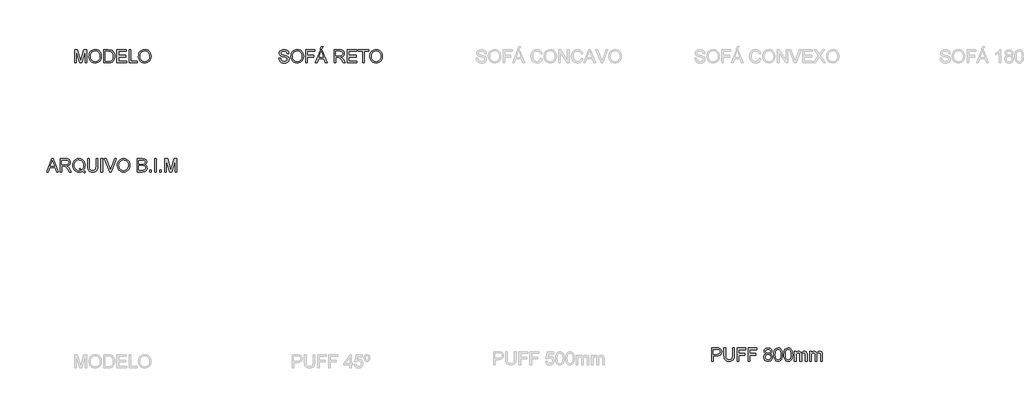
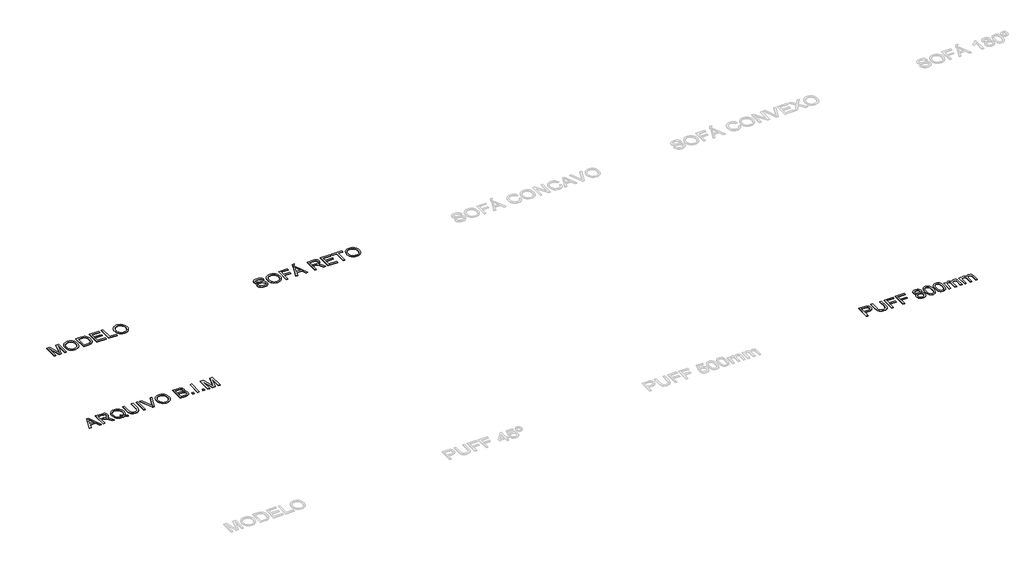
# One storey, part 2 of 4: 4 proxies.
"""IFC4 building model written with IfcOpenShell, lengths in millimetres."""

from ifc_helpers import new_model, si_unit, origin, origin_with_axes, place, context, project, spatial, polyline, outline, extrude, element, save

model = new_model("IFC4")

# Units and contexts
model_context = context("Model", 3, world=origin())
ifc_project = project(units=[si_unit("LENGTHUNIT", "METRE", prefix="MILLI")], contexts=[model_context])

# Site, building, storey
site = spatial("IfcSite", under=ifc_project)
building = spatial("IfcBuilding", under=site)
storey = spatial("IfcBuildingStorey", under=building, Name="Marelli - Linha BLEND - Planta Baixa", Elevation=0.0)

# Proxies
placement = place(None, origin())
element("IfcBuildingElementProxy", 1, Name="300mm Arial", ObjectType="300mm Arial", at=placement, inside=storey, context=model_context, shape_type="SweptSolid", body=[
    extrude(outline(polyline([(-20609.419598, 3219.4336799), (-20489.1221856, 3520.8026104), (-20457.0428756, 3520.8026104), (-20336.7454632, 3219.4336799), (-20376.550295, 3219.4336799), (-20411.0576262, 3313.6114707), (-20535.1810114, 3313.6114707), (-20569.6147661, 3219.4336799), (-20609.419598, 3219.4336799)]), holes=[polyline([(-20521.3486483, 3351.282587), (-20424.8164128, 3351.282587), (-20451.9661041, 3425.3740208), (-20473.0825306, 3483.1314941), (-20491.8445123, 3431.8487439), (-20521.3486483, 3351.282587)])]), origin_with_axes(), (0.0, 0.0, 1.0), 10.0),
    extrude(outline(polyline([(-20296.4991729, 3219.4336799), (-20296.4991729, 3520.8026104), (-20166.6368286, 3520.8026104), (-20131.7340243, 3518.7700624), (-20106.3409696, 3512.6724183), (-20087.7813229, 3501.4152292), (-20073.3787428, 3483.9040463), (-20064.1357077, 3462.1898115), (-20061.054696, 3438.3234671), (-20066.1590587, 3408.6353901), (-20081.4721467, 3384.0240846), (-20093.0719259, 3373.9947017), (-20107.4538126, 3365.9794727), (-20144.5639089, 3355.9914765), (-20123.1531768, 3339.8782452), (-20092.6189712, 3301.1034829), (-20042.3662906, 3219.4336799), (-20086.144248, 3219.4336799), (-20125.3604687, 3281.9000427), (-20153.6873824, 3323.249979), (-20173.5897983, 3342.7845129), (-20191.5056515, 3349.9582118), (-20213.357842, 3351.282587), (-20258.8280566, 3351.282587), (-20258.8280566, 3219.4336799), (-20296.4991729, 3219.4336799)]), holes=[polyline([(-20258.8280566, 3388.9537033), (-20174.5095033, 3388.9537033), (-20150.293671, 3390.2872755), (-20131.5040981, 3394.2879922), (-20117.3590353, 3401.2225678), (-20107.0767336, 3411.3577168), (-20100.8135426, 3423.6173843), (-20098.7258123, 3436.9255155), (-20102.7081349, 3455.3012211), (-20114.6551027, 3470.1084714), (-20135.2105092, 3479.8757384), (-20165.0181478, 3483.1314941), (-20258.8280566, 3483.1314941), (-20258.8280566, 3388.9537033)])]), origin_with_axes(), (0.0, 0.0, 1.0), 10.0),
    extrude(outline(polyline([(-19768.7356626, 3255.5596919), (-19744.4002686, 3236.963257), (-19722.0146492, 3224.1425695), (-19732.1681923, 3196.5514198), (-19763.2358268, 3210.9539999), (-19794.1930967, 3231.794515), (-19829.0499157, 3218.9922215), (-19867.4016137, 3214.7247904), (-19905.9372527, 3219.6452121), (-19940.7572836, 3234.4064771), (-19969.9211287, 3258.0796835), (-19991.4882107, 3289.7359292), (-20004.814736, 3327.6369718), (-20009.2569111, 3370.0445688), (-20004.823933, 3412.488954), (-19991.5249989, 3450.9418195), (-19970.0406904, 3483.0487206), (-19941.0515892, 3506.4552126), (-19906.360317, 3520.7474281), (-19867.7694957, 3525.5114999), (-19828.8751718, 3520.6370635), (-19794.0091557, 3506.0137542), (-19765.0660397, 3482.6164593), (-19743.9404161, 3451.4200661), (-19731.0277581, 3414.0800436), (-19726.7235388, 3372.2518607), (-19729.3355009, 3337.4686181), (-19737.1713874, 3306.4009836), (-19750.2863806, 3279.0857454), (-19768.7356626, 3255.5596919)]), holes=[polyline([(-19857.0273415, 3305.6652196), (-19825.3527017, 3293.6906607), (-19799.784903, 3277.0440004), (-19784.3016695, 3294.5183951), (-19773.2422171, 3315.8923391), (-19766.6065456, 3341.1658321), (-19764.3946551, 3370.3388744), (-19767.521652, 3403.4942392), (-19776.9026429, 3432.1798377), (-19792.3077015, 3455.6691031), (-19813.5069014, 3473.2354684), (-19839.065503, 3484.1891548), (-19867.5487665, 3487.8403836), (-19889.033075, 3485.9940758), (-19908.6043972, 3480.4551526), (-19926.2627329, 3471.2236137), (-19942.0080823, 3458.2994594), (-19954.9483315, 3441.7102807), (-19964.1913666, 3421.4836687), (-19969.7371877, 3397.6196236), (-19971.5857948, 3370.1181452), (-19969.7578811, 3343.3340366), (-19964.2741401, 3319.8562676), (-19955.1345718, 3299.6848379), (-19942.3391761, 3282.8197477), (-19926.7018921, 3269.5093173), (-19909.0366585, 3260.001867), (-19889.3434755, 3254.2973968), (-19867.6223429, 3252.3959067), (-19846.7082515, 3254.3272872), (-19827.081747, 3260.1214286), (-19846.3771577, 3270.146213), (-19866.7394261, 3276.8232712), (-19857.0273415, 3305.6652196)])]), origin_with_axes(), (0.0, 0.0, 1.0), 10.0),
    extrude(outline(polyline([(-19472.4435037, 3520.8026104), (-19434.7723874, 3520.8026104), (-19434.7723874, 3346.9415795), (-19437.3291673, 3306.2262396), (-19444.9995069, 3274.8734966), (-19459.3285106, 3250.6852554), (-19481.8612828, 3231.4634212), (-19512.6530058, 3218.9094481), (-19551.7588619, 3214.7247904), (-19590.0093923, 3218.3668221), (-19620.5895832, 3229.2929174), (-19643.5086315, 3247.1259971), (-19658.7757343, 3271.4889822), (-19667.3565818, 3304.1661005), (-19670.2168643, 3346.9415795), (-19670.2168643, 3520.8026104), (-19632.545748, 3520.8026104), (-19632.545748, 3348.2659546), (-19630.6879439, 3314.411614), (-19625.1145317, 3290.8395752), (-19615.0161709, 3274.5148117), (-19599.5835212, 3262.402297), (-19579.4603761, 3254.8975043), (-19555.290529, 3252.3959067), (-19516.9756192, 3257.3439195), (-19502.6328199, 3263.5289356), (-19491.499791, 3272.187958), (-19483.1626653, 3284.3648521), (-19477.2075755, 3301.1034829), (-19472.4435037, 3348.2659546), (-19472.4435037, 3520.8026104)])), origin_with_axes(), (0.0, 0.0, 1.0), 10.0),
    extrude(outline(polyline([(-19364.1390443, 3219.4336799), (-19364.1390443, 3520.8026104), (-19326.467928, 3520.8026104), (-19326.467928, 3219.4336799), (-19364.1390443, 3219.4336799)])), origin_with_axes(), (0.0, 0.0, 1.0), 10.0),
    extrude(outline(polyline([(-19162.0982526, 3219.4336799), (-19282.027783, 3520.8026104), (-19241.7079163, 3520.8026104), (-19161.436065, 3303.6786568), (-19145.1756808, 3254.7503515), (-19129.1360258, 3303.6786568), (-19048.6434453, 3520.8026104), (-19008.3235786, 3520.8026104), (-19123.1763375, 3219.4336799), (-19162.0982526, 3219.4336799)])), origin_with_axes(), (0.0, 0.0, 1.0), 10.0),
    extrude(outline(polyline([(-18987.4278813, 3366.1450196), (-18984.9170866, 3401.4938808), (-18977.3847028, 3432.786843), (-18964.8307297, 3460.0239063), (-18947.2551674, 3483.2050705), (-18925.711078, 3501.7141334), (-18901.2515239, 3514.9348926), (-18873.8765049, 3522.8673481), (-18843.5860211, 3525.5114999), (-18804.0571008, 3520.545093), (-18768.6116705, 3505.6458722), (-18739.1811109, 3481.8623012), (-18717.6968024, 3450.2428437), (-18704.5634152, 3412.31421), (-18700.1856194, 3369.6031104), (-18704.7933414, 3326.3217936), (-18718.6165074, 3287.859731), (-18740.8917622, 3256.1850913), (-18770.8557507, 3233.266043), (-18805.9976783, 3219.3601035), (-18843.8067503, 3214.7247904), (-18883.942676, 3219.8475472), (-18919.5904413, 3235.2158175), (-18948.9474246, 3259.4408469), (-18970.2110039, 3291.1338808), (-18983.1236619, 3327.6001836), (-18987.4278813, 3366.1450196)]), holes=[polyline([(-18949.7567649, 3365.7771376), (-18947.873669, 3340.8025487), (-18942.2243811, 3318.6330599), (-18932.8089013, 3299.2686714), (-18919.6272295, 3282.7093831), (-18903.6036694, 3269.4472372), (-18885.6625243, 3259.9742758), (-18865.8037944, 3254.290499), (-18844.0274795, 3252.3959067), (-18821.8786842, 3254.3088931), (-18801.7854294, 3260.0478522), (-18783.7477154, 3269.6127841), (-18767.7655419, 3283.0036887), (-18754.6804392, 3299.9124649), (-18745.3339373, 3320.0310115), (-18739.7260361, 3343.3593285), (-18737.8567357, 3369.897416), (-18741.0573091, 3403.2459188), (-18750.6590292, 3432.0694731), (-18766.4135756, 3455.641512), (-18788.0726281, 3473.2354684), (-18814.2014468, 3484.1891548), (-18843.3652919, 3487.8403836), (-18864.3851494, 3486.0814478), (-18883.8874937, 3480.8046405), (-18901.8723248, 3472.0099615), (-18918.3396426, 3459.697411), (-18932.0846336, 3443.2737792), (-18941.9024844, 3422.1458563), (-18947.7931948, 3396.3136425), (-18949.7567649, 3365.7771376)])]), origin_with_axes(), (0.0, 0.0, 1.0), 10.0),
    extrude(outline(polyline([(-18530.665596, 3219.4336799), (-18530.665596, 3520.8026104), (-18415.6656844, 3520.8026104), (-18384.0370298, 3518.5861214), (-18359.3429509, 3511.9366543), (-18340.4154222, 3500.6886623), (-18326.0864185, 3484.6765985), (-18317.0641126, 3465.8410403), (-18314.0566773, 3446.1225654), (-18316.585866, 3427.9767859), (-18324.1734321, 3410.9162584), (-18336.874558, 3395.9894465), (-18354.7444259, 3384.2448138), (-18333.3980732, 3373.0979893), (-18317.6251326, 3356.1386293), (-18307.8854568, 3334.4887739), (-18304.6388982, 3309.2704632), (-18306.8553872, 3288.2552042), (-18313.5048543, 3268.7666555), (-18323.4284711, 3252.1935716), (-18335.4674094, 3239.9247071), (-18350.2102804, 3231.0403569), (-18368.2456952, 3224.6208161), (-18416.5486011, 3219.4336799), (-18530.665596, 3219.4336799)]), holes=[polyline([(-18492.9944797, 3398.3714824), (-18424.2005466, 3398.3714824), (-18384.0278328, 3401.6088439), (-18369.9655435, 3407.1914532), (-18359.8579857, 3415.5515716), (-18353.7603416, 3426.5604403), (-18351.7277936, 3440.0893006), (-18353.6223859, 3453.2226879), (-18359.3061627, 3464.6638179), (-18368.5216067, 3473.5941533), (-18381.0112004, 3479.1951567), (-18429.424471, 3483.1314941), (-18492.9944797, 3483.1314941), (-18492.9944797, 3398.3714824)]), polyline([(-18492.9944797, 3257.1047962), (-18415.7392607, 3257.1047962), (-18387.7802291, 3258.5763242), (-18364.1254168, 3266.7800927), (-18348.4536438, 3283.5187235), (-18343.8459218, 3295.3461296), (-18342.3100145, 3308.9025812), (-18344.1126363, 3324.6479306), (-18349.5205016, 3338.185988), (-18358.9658718, 3348.7717924), (-18372.8810083, 3355.6603827), (-18392.5902862, 3359.4403702), (-18419.4180807, 3360.7003661), (-18492.9944797, 3360.7003661), (-18492.9944797, 3257.1047962)])]), origin_with_axes(), (0.0, 0.0, 1.0), 10.0),
    extrude(outline(polyline([(-18248.1322237, 3219.4336799), (-18248.1322237, 3257.1047962), (-18210.4611074, 3257.1047962), (-18210.4611074, 3219.4336799), (-18248.1322237, 3219.4336799)])), origin_with_axes(), (0.0, 0.0, 1.0), 10.0),
    extrude(outline(polyline([(-18130.4099853, 3219.4336799), (-18130.4099853, 3520.8026104), (-18092.738869, 3520.8026104), (-18092.738869, 3219.4336799), (-18130.4099853, 3219.4336799)])), origin_with_axes(), (0.0, 0.0, 1.0), 10.0),
    extrude(outline(polyline([(-18012.6877468, 3219.4336799), (-18012.6877468, 3257.1047962), (-17975.0166305, 3257.1047962), (-17975.0166305, 3219.4336799), (-18012.6877468, 3219.4336799)])), origin_with_axes(), (0.0, 0.0, 1.0), 10.0),
    extrude(outline(polyline([(-17899.6743979, 3219.4336799), (-17899.6743979, 3520.8026104), (-17834.8535904, 3520.8026104), (-17773.196568, 3308.3875464), (-17760.7621565, 3264.0209777), (-17747.2976755, 3312.0663663), (-17686.6707227, 3520.8026104), (-17621.8499152, 3520.8026104), (-17621.8499152, 3219.4336799), (-17659.5210315, 3219.4336799), (-17659.5210315, 3483.1314941), (-17735.2311461, 3219.4336799), (-17786.293167, 3219.4336799), (-17862.0032816, 3483.1314941), (-17862.0032816, 3219.4336799), (-17899.6743979, 3219.4336799)])), origin_with_axes(), (0.0, 0.0, 1.0), 10.0),
])
element("IfcBuildingElementProxy", 2, Name="300mm Arial", ObjectType="300mm Arial", at=placement, inside=storey, context=model_context, shape_type="SweptSolid", body=[
    extrude(outline(polyline([(-19966.8769052, 5719.4336799), (-19966.8769052, 6020.8026104), (-19902.0560977, 6020.8026104), (-19840.3990753, 5808.3875464), (-19827.9646638, 5764.0209777), (-19814.5001828, 5812.0663663), (-19753.87323, 6020.8026104), (-19689.0524225, 6020.8026104), (-19689.0524225, 5719.4336799), (-19726.7235388, 5719.4336799), (-19726.7235388, 5983.1314941), (-19802.4336534, 5719.4336799), (-19853.4956743, 5719.4336799), (-19929.2057889, 5983.1314941), (-19929.2057889, 5719.4336799), (-19966.8769052, 5719.4336799)])), origin_with_axes(), (0.0, 0.0, 1.0), 10.0),
    extrude(outline(polyline([(-19637.2546375, 5866.1450196), (-19634.7438429, 5901.4938808), (-19627.2114591, 5932.786843), (-19614.657486, 5960.0239063), (-19597.0819237, 5983.2050705), (-19575.5378343, 6001.7141334), (-19551.0782802, 6014.9348926), (-19523.7032612, 6022.8673481), (-19493.4127774, 6025.5114999), (-19453.883857, 6020.545093), (-19418.4384268, 6005.6458722), (-19389.0078672, 5981.8623012), (-19367.5235587, 5950.2428437), (-19354.3901714, 5912.31421), (-19350.0123757, 5869.6031104), (-19354.6200977, 5826.3217936), (-19368.4432637, 5787.859731), (-19390.7185185, 5756.1850913), (-19420.682507, 5733.266043), (-19455.8244346, 5719.3601035), (-19493.6335066, 5714.7247904), (-19533.7694323, 5719.8475472), (-19569.4171976, 5735.2158175), (-19598.7741808, 5759.4408469), (-19620.0377602, 5791.1338808), (-19632.9504182, 5827.6001836), (-19637.2546375, 5866.1450196)]), holes=[polyline([(-19599.5835212, 5865.7771376), (-19597.7004253, 5840.8025487), (-19592.0511374, 5818.6330599), (-19582.6356576, 5799.2686714), (-19569.4539858, 5782.7093831), (-19553.4304257, 5769.4472372), (-19535.4892806, 5759.9742758), (-19515.6305507, 5754.290499), (-19493.8542358, 5752.3959067), (-19471.7054404, 5754.3088931), (-19451.6121857, 5760.0478522), (-19433.5744716, 5769.6127841), (-19417.5922982, 5783.0036887), (-19404.5071955, 5799.9124649), (-19395.1606936, 5820.0310115), (-19389.5527924, 5843.3593285), (-19387.683492, 5869.897416), (-19390.8840654, 5903.2459188), (-19400.4857854, 5932.0694731), (-19416.2403319, 5955.641512), (-19437.8993843, 5973.2354684), (-19464.0282031, 5984.1891548), (-19493.1920482, 5987.8403836), (-19514.2119057, 5986.0814478), (-19533.71425, 5980.8046405), (-19551.699081, 5972.0099615), (-19568.1663988, 5959.697411), (-19581.9113899, 5943.2737792), (-19591.7292406, 5922.1458563), (-19597.6199511, 5896.3136425), (-19599.5835212, 5865.7771376)])]), origin_with_axes(), (0.0, 0.0, 1.0), 10.0),
    extrude(outline(polyline([(-19298.2145908, 5719.4336799), (-19298.2145908, 6020.8026104), (-19194.2511389, 6020.8026104), (-19140.4667912, 6016.4616028), (-19116.444097, 6008.0922874), (-19096.173799, 5994.9037179), (-19075.333284, 5971.9478814), (-19060.4892455, 5943.4002386), (-19051.6048953, 5909.8126124), (-19048.6434453, 5871.7368259), (-19050.6484021, 5839.3908015), (-19056.6632727, 5810.9259321), (-19065.8235344, 5786.6917057), (-19077.2646645, 5767.0376101), (-19090.4348399, 5751.522187), (-19104.7822377, 5739.7039779), (-19121.254154, 5730.9391893), (-19140.797885, 5724.5840279), (-19189.2479438, 5719.4336799), (-19298.2145908, 5719.4336799)]), holes=[polyline([(-19260.5434745, 5757.1047962), (-19193.8832569, 5757.1047962), (-19166.3105014, 5758.4659596), (-19145.39641, 5762.5494498), (-19129.6142724, 5769.1161434), (-19117.4373783, 5777.9269172), (-19104.3499764, 5794.2332866), (-19094.5183301, 5815.3405161), (-19088.3655037, 5841.3405761), (-19086.3145616, 5872.3254371), (-19090.3336724, 5913.3810678), (-19102.3910047, 5943.6945442), (-19120.2056904, 5964.5166651), (-19141.4968608, 5977.0982294), (-19163.1651104, 5981.6231779), (-19194.9133265, 5983.1314941), (-19260.5434745, 5983.1314941), (-19260.5434745, 5757.1047962)])]), origin_with_axes(), (0.0, 0.0, 1.0), 10.0),
    extrude(outline(polyline([(-18996.8456603, 5719.4336799), (-18996.8456603, 6020.8026104), (-18780.2367416, 6020.8026104), (-18780.2367416, 5983.1314941), (-18959.174544, 5983.1314941), (-18959.174544, 5893.6625928), (-18789.6545206, 5893.6625928), (-18789.6545206, 5855.9914765), (-18959.174544, 5855.9914765), (-18959.174544, 5757.1047962), (-18775.527852, 5757.1047962), (-18775.527852, 5719.4336799), (-18996.8456603, 5719.4336799)])), origin_with_axes(), (0.0, 0.0, 1.0), 10.0),
    extrude(outline(polyline([(-18719.0211776, 5719.4336799), (-18719.0211776, 6020.8026104), (-18681.3500613, 6020.8026104), (-18681.3500613, 5757.1047962), (-18530.665596, 5757.1047962), (-18530.665596, 5719.4336799), (-18719.0211776, 5719.4336799)])), origin_with_axes(), (0.0, 0.0, 1.0), 10.0),
    extrude(outline(polyline([(-18502.4122588, 5866.1450196), (-18499.9014642, 5901.4938808), (-18492.3690803, 5932.786843), (-18479.8151073, 5960.0239063), (-18462.2395449, 5983.2050705), (-18440.6954556, 6001.7141334), (-18416.2359014, 6014.9348926), (-18388.8608825, 6022.8673481), (-18358.5703987, 6025.5114999), (-18319.0414783, 6020.545093), (-18283.5960481, 6005.6458722), (-18254.1654885, 5981.8623012), (-18232.6811799, 5950.2428437), (-18219.5477927, 5912.31421), (-18215.169997, 5869.6031104), (-18219.777719, 5826.3217936), (-18233.6008849, 5787.859731), (-18255.8761397, 5756.1850913), (-18285.8401283, 5733.266043), (-18320.9820558, 5719.3601035), (-18358.7911279, 5714.7247904), (-18398.9270536, 5719.8475472), (-18434.5748189, 5735.2158175), (-18463.9318021, 5759.4408469), (-18485.1953814, 5791.1338808), (-18498.1080395, 5827.6001836), (-18502.4122588, 5866.1450196)]), holes=[polyline([(-18464.7411425, 5865.7771376), (-18462.8580465, 5840.8025487), (-18457.2087587, 5818.6330599), (-18447.7932788, 5799.2686714), (-18434.6116071, 5782.7093831), (-18418.5880469, 5769.4472372), (-18400.6469019, 5759.9742758), (-18380.7881719, 5754.290499), (-18359.0118571, 5752.3959067), (-18336.8630617, 5754.3088931), (-18316.769807, 5760.0478522), (-18298.7320929, 5769.6127841), (-18282.7499195, 5783.0036887), (-18269.6648168, 5799.9124649), (-18260.3183148, 5820.0310115), (-18254.7104137, 5843.3593285), (-18252.8411133, 5869.897416), (-18256.0416866, 5903.2459188), (-18265.6434067, 5932.0694731), (-18281.3979532, 5955.641512), (-18303.0570056, 5973.2354684), (-18329.1858243, 5984.1891548), (-18358.3496695, 5987.8403836), (-18379.369527, 5986.0814478), (-18398.8718713, 5980.8046405), (-18416.8567023, 5972.0099615), (-18433.3240201, 5959.697411), (-18447.0690112, 5943.2737792), (-18456.8868619, 5922.1458563), (-18462.7775724, 5896.3136425), (-18464.7411425, 5865.7771376)])]), origin_with_axes(), (0.0, 0.0, 1.0), 10.0),
])
element("IfcBuildingElementProxy", 3, Name="300mm Arial", ObjectType="300mm Arial", at=placement, inside=storey, context=model_context, shape_type="SweptSolid", body=[
    extrude(outline(polyline([(-15284.726949, 5823.0292498), (-15247.0558327, 5823.0292498), (-15242.7332193, 5802.1243554), (-15234.9157269, 5785.3213453), (-15222.7204388, 5771.9856229), (-15205.2644381, 5761.482592), (-15183.9272824, 5754.667578), (-15160.0885291, 5752.3959067), (-15139.1008613, 5754.115755), (-15120.7251556, 5759.2753), (-15105.8351318, 5767.4422803), (-15095.3045097, 5778.1844346), (-15089.0413188, 5790.5176784), (-15086.9535884, 5803.4579276), (-15088.5170869, 5816.067083), (-15093.2075824, 5826.9655871), (-15102.735726, 5836.2638046), (-15118.8121692, 5844.0720999), (-15173.6633747, 5858.4562859), (-15209.669825, 5867.9752325), (-15232.7084349, 5877.0343267), (-15251.4612196, 5889.7078614), (-15264.7509567, 5905.0669347), (-15272.6696167, 5922.7804528), (-15275.30917, 5942.5173218), (-15272.0442173, 5964.5810445), (-15262.2493591, 5985.154845), (-15246.182113, 6002.5924516), (-15224.0999962, 6015.2475923), (-15197.5940985, 6022.945523), (-15168.2555094, 6025.5114999), (-15136.470505, 6022.8259614), (-15108.6586262, 6014.7693457), (-15085.8131543, 6001.5071997), (-15068.9273707, 5983.2050705), (-15058.2403987, 5961.0033921), (-15053.9913617, 5936.0425987), (-15091.662478, 5936.0425987), (-15098.5786595, 5958.5201886), (-15112.9996337, 5974.7437846), (-15135.5324059, 5984.5662339), (-15166.7839814, 5987.8403836), (-15198.7713209, 5984.6030221), (-15220.7154819, 5974.8909374), (-15233.4074107, 5960.5987219), (-15237.6380537, 5943.6209678), (-15234.6398154, 5929.1448113), (-15225.6451006, 5917.5013461), (-15204.3815213, 5907.0902857), (-15164.135231, 5896.458496), (-15122.6013538, 5886.3601352), (-15097.4750135, 5877.5493615), (-15075.999902, 5863.8825453), (-15061.0179078, 5847.0151559), (-15052.216331, 5827.131134), (-15049.2824721, 5804.4144208), (-15052.6577894, 5781.1918699), (-15062.7837414, 5759.3488764), (-15079.2464606, 5740.5501065), (-15101.63208, 5726.460226), (-15128.551845, 5717.6586493), (-15158.6170011, 5714.7247904), (-15195.5247623, 5717.8885756), (-15225.902618, 5727.379931), (-15250.1000562, 5743.235645), (-15268.4665649, 5765.4925057), (-15280.2571828, 5792.6054088), (-15284.726949, 5823.0292498)])), origin_with_axes(), (0.0, 0.0, 1.0), 10.0),
    extrude(outline(polyline([(-15006.9024663, 5866.1450196), (-15004.3916717, 5901.4938808), (-14996.8592878, 5932.786843), (-14984.3053147, 5960.0239063), (-14966.7297524, 5983.2050705), (-14945.1856631, 6001.7141334), (-14920.7261089, 6014.9348926), (-14893.35109, 6022.8673481), (-14863.0606062, 6025.5114999), (-14823.5316858, 6020.545093), (-14788.0862556, 6005.6458722), (-14758.6556959, 5981.8623012), (-14737.1713874, 5950.2428437), (-14724.0380002, 5912.31421), (-14719.6602045, 5869.6031104), (-14724.2679264, 5826.3217936), (-14738.0910924, 5787.859731), (-14760.3663472, 5756.1850913), (-14790.3303357, 5733.266043), (-14825.4722633, 5719.3601035), (-14863.2813354, 5714.7247904), (-14903.417261, 5719.8475472), (-14939.0650264, 5735.2158175), (-14968.4220096, 5759.4408469), (-14989.6855889, 5791.1338808), (-15002.5982469, 5827.6001836), (-15006.9024663, 5866.1450196)]), holes=[polyline([(-14969.23135, 5865.7771376), (-14967.348254, 5840.8025487), (-14961.6989661, 5818.6330599), (-14952.2834863, 5799.2686714), (-14939.1018146, 5782.7093831), (-14923.0782544, 5769.4472372), (-14905.1371094, 5759.9742758), (-14885.2783794, 5754.290499), (-14863.5020646, 5752.3959067), (-14841.3532692, 5754.3088931), (-14821.2600145, 5760.0478522), (-14803.2223004, 5769.6127841), (-14787.240127, 5783.0036887), (-14774.1550243, 5799.9124649), (-14764.8085223, 5820.0310115), (-14759.2006211, 5843.3593285), (-14757.3313208, 5869.897416), (-14760.5318941, 5903.2459188), (-14770.1336142, 5932.0694731), (-14785.8881606, 5955.641512), (-14807.5472131, 5973.2354684), (-14833.6760318, 5984.1891548), (-14862.839877, 5987.8403836), (-14883.8597345, 5986.0814478), (-14903.3620787, 5980.8046405), (-14921.3469098, 5972.0099615), (-14937.8142276, 5959.697411), (-14951.5592186, 5943.2737792), (-14961.3770694, 5922.1458563), (-14967.2677798, 5896.3136425), (-14969.23135, 5865.7771376)])]), origin_with_axes(), (0.0, 0.0, 1.0), 10.0),
    extrude(outline(polyline([(-14667.8624195, 5719.4336799), (-14667.8624195, 6020.8026104), (-14465.3801694, 6020.8026104), (-14465.3801694, 5983.1314941), (-14630.1913032, 5983.1314941), (-14630.1913032, 5893.6625928), (-14488.9246171, 5893.6625928), (-14488.9246171, 5855.9914765), (-14630.1913032, 5855.9914765), (-14630.1913032, 5719.4336799), (-14667.8624195, 5719.4336799)])), origin_with_axes(), (0.0, 0.0, 1.0), 10.0),
    extrude(outline(polyline([(-14448.6783268, 5719.4336799), (-14328.3809144, 6020.8026104), (-14296.3016044, 6020.8026104), (-14176.004192, 5719.4336799), (-14215.8090239, 5719.4336799), (-14250.316355, 5813.6114707), (-14374.4397402, 5813.6114707), (-14408.8734949, 5719.4336799), (-14448.6783268, 5719.4336799)]), holes=[polyline([(-14360.6073772, 5851.282587), (-14264.0751416, 5851.282587), (-14291.2248329, 5925.3740208), (-14312.3412594, 5983.1314941), (-14331.1032411, 5931.8487439), (-14360.6073772, 5851.282587)])]), origin_with_axes(), (0.0, 0.0, 1.0), 10.0),
    extrude(outline(polyline([(-14338.2401519, 6039.6381685), (-14309.9868146, 6096.144843), (-14262.8979192, 6096.144843), (-14309.9868146, 6039.6381685), (-14338.2401519, 6039.6381685)])), origin_with_axes(), (0.0, 0.0, 1.0), 10.0),
    extrude(outline(polyline([(-14018.0356633, 5719.4336799), (-14018.0356633, 6020.8026104), (-13888.173319, 6020.8026104), (-13853.2705147, 6018.7700624), (-13827.8774599, 6012.6724183), (-13809.3178133, 6001.4152292), (-13794.9152332, 5983.9040463), (-13785.672198, 5962.1898115), (-13782.5911863, 5938.3234671), (-13787.695549, 5908.6353901), (-13803.0086371, 5884.0240846), (-13814.6084162, 5873.9947017), (-13828.990303, 5865.9794727), (-13866.1003992, 5855.9914765), (-13844.6896671, 5839.8782452), (-13814.1554615, 5801.1034829), (-13763.902781, 5719.4336799), (-13807.6807384, 5719.4336799), (-13846.8969591, 5781.9000427), (-13875.2238727, 5823.249979), (-13895.1262887, 5842.7845129), (-13913.0421418, 5849.9582118), (-13934.8943323, 5851.282587), (-13980.3645469, 5851.282587), (-13980.3645469, 5719.4336799), (-14018.0356633, 5719.4336799)]), holes=[polyline([(-13980.3645469, 5888.9537033), (-13896.0459937, 5888.9537033), (-13871.8301613, 5890.2872755), (-13853.0405884, 5894.2879922), (-13838.8955257, 5901.2225678), (-13828.6132239, 5911.3577168), (-13822.350033, 5923.6173843), (-13820.2623026, 5936.9255155), (-13824.2446252, 5955.3012211), (-13836.191593, 5970.1084714), (-13856.7469995, 5979.8757384), (-13886.5546382, 5983.1314941), (-13980.3645469, 5983.1314941), (-13980.3645469, 5888.9537033)])]), origin_with_axes(), (0.0, 0.0, 1.0), 10.0),
    extrude(outline(polyline([(-13716.6667328, 5719.4336799), (-13716.6667328, 6020.8026104), (-13500.057814, 6020.8026104), (-13500.057814, 5983.1314941), (-13678.9956165, 5983.1314941), (-13678.9956165, 5893.6625928), (-13509.4755931, 5893.6625928), (-13509.4755931, 5855.9914765), (-13678.9956165, 5855.9914765), (-13678.9956165, 5757.1047962), (-13495.3489245, 5757.1047962), (-13495.3489245, 5719.4336799), (-13716.6667328, 5719.4336799)])), origin_with_axes(), (0.0, 0.0, 1.0), 10.0),
    extrude(outline(polyline([(-13363.5000174, 5719.4336799), (-13363.5000174, 5983.1314941), (-13462.3866977, 5983.1314941), (-13462.3866977, 6020.8026104), (-13226.9422208, 6020.8026104), (-13226.9422208, 5983.1314941), (-13325.8289011, 5983.1314941), (-13325.8289011, 5719.4336799), (-13363.5000174, 5719.4336799)])), origin_with_axes(), (0.0, 0.0, 1.0), 10.0),
    extrude(outline(polyline([(-13198.6888836, 5866.1450196), (-13196.178089, 5901.4938808), (-13188.6457051, 5932.786843), (-13176.091732, 5960.0239063), (-13158.5161697, 5983.2050705), (-13136.9720804, 6001.7141334), (-13112.5125262, 6014.9348926), (-13085.1375073, 6022.8673481), (-13054.8470235, 6025.5114999), (-13015.3181031, 6020.545093), (-12979.8726729, 6005.6458722), (-12950.4421132, 5981.8623012), (-12928.9578047, 5950.2428437), (-12915.8244175, 5912.31421), (-12911.4466218, 5869.6031104), (-12916.0543438, 5826.3217936), (-12929.8775097, 5787.859731), (-12952.1527645, 5756.1850913), (-12982.116753, 5733.266043), (-13017.2586806, 5719.3601035), (-13055.0677527, 5714.7247904), (-13095.2036784, 5719.8475472), (-13130.8514437, 5735.2158175), (-13160.2084269, 5759.4408469), (-13181.4720062, 5791.1338808), (-13194.3846643, 5827.6001836), (-13198.6888836, 5866.1450196)]), holes=[polyline([(-13161.0177673, 5865.7771376), (-13159.1346713, 5840.8025487), (-13153.4853834, 5818.6330599), (-13144.0699036, 5799.2686714), (-13130.8882319, 5782.7093831), (-13114.8646717, 5769.4472372), (-13096.9235267, 5759.9742758), (-13077.0647967, 5754.290499), (-13055.2884819, 5752.3959067), (-13033.1396865, 5754.3088931), (-13013.0464318, 5760.0478522), (-12995.0087177, 5769.6127841), (-12979.0265443, 5783.0036887), (-12965.9414416, 5799.9124649), (-12956.5949396, 5820.0310115), (-12950.9870385, 5843.3593285), (-12949.1177381, 5869.897416), (-12952.3183114, 5903.2459188), (-12961.9200315, 5932.0694731), (-12977.6745779, 5955.641512), (-12999.3336304, 5973.2354684), (-13025.4624491, 5984.1891548), (-13054.6262943, 5987.8403836), (-13075.6461518, 5986.0814478), (-13095.1484961, 5980.8046405), (-13113.1333271, 5972.0099615), (-13129.6006449, 5959.697411), (-13143.3456359, 5943.2737792), (-13153.1634867, 5922.1458563), (-13159.0541971, 5896.3136425), (-13161.0177673, 5865.7771376)])]), origin_with_axes(), (0.0, 0.0, 1.0), 10.0),
])
element("IfcBuildingElementProxy", 4, Name="300mm Arial", ObjectType="300mm Arial", at=placement, inside=storey, context=model_context, shape_type="SweptSolid", body=[
    extrude(outline(polyline([(-5362.4236264, -1122.8971556), (-5362.4236264, -821.5282252), (-5250.7346527, -821.5282252), (-5205.7058965, -824.3977048), (-5185.6287366, -829.7595848), (-5169.101638, -838.4875852), (-5155.7935068, -850.9771789), (-5145.3732493, -867.6238392), (-5138.6410088, -887.2595407), (-5136.3969286, -908.7162581), (-5137.9121426, -927.2161239), (-5142.4577845, -944.2352647), (-5150.0338543, -959.7736805), (-5160.6403521, -973.8313712), (-5175.2015813, -985.4840334), (-5194.6418455, -993.8073635), (-5218.9611446, -998.8013616), (-5248.1594787, -1000.4660276), (-5324.7525101, -1000.4660276), (-5324.7525101, -1122.8971556), (-5362.4236264, -1122.8971556)]), holes=[polyline([(-5324.7525101, -962.7949113), (-5245.9521868, -962.7949113), (-5212.5485016, -959.3368206), (-5190.4755819, -948.9625483), (-5178.1699291, -932.315888), (-5174.0680449, -910.0406332), (-5176.486869, -893.1180615), (-5183.7433414, -878.84424), (-5194.9361511, -868.1020858), (-5209.1639872, -861.7745155), (-5246.8351035, -859.1993415), (-5324.7525101, -859.1993415), (-5324.7525101, -962.7949113)])]), origin_with_axes(), (0.0, 0.0, 1.0), 10.0),
    extrude(outline(polyline([(-4886.8257831, -821.5282252), (-4849.1546668, -821.5282252), (-4849.1546668, -995.3892561), (-4851.7114466, -1036.1045959), (-4859.3817862, -1067.457339), (-4873.7107899, -1091.6455802), (-4896.2435621, -1110.8674144), (-4927.0352851, -1123.4213875), (-4966.1411412, -1127.6060452), (-5004.3916717, -1123.9640134), (-5034.9718625, -1113.0379182), (-5057.8909108, -1095.2048385), (-5073.1580136, -1070.8418533), (-5081.7388612, -1038.1647351), (-5084.5991437, -995.3892561), (-5084.5991437, -821.5282252), (-5046.9280274, -821.5282252), (-5046.9280274, -994.0648809), (-5045.0702233, -1027.9192215), (-5039.4968111, -1051.4912604), (-5029.3984503, -1067.8160239), (-5013.9658006, -1079.9285386), (-4993.8426555, -1087.4333313), (-4969.6728084, -1089.9349289), (-4931.3578986, -1084.986916), (-4917.0150993, -1078.8019), (-4905.8820704, -1070.1428775), (-4897.5449447, -1057.9659835), (-4891.5898549, -1041.2273527), (-4886.8257831, -994.0648809), (-4886.8257831, -821.5282252)])), origin_with_axes(), (0.0, 0.0, 1.0), 10.0),
    extrude(outline(polyline([(-4783.2302132, -1122.8971556), (-4783.2302132, -821.5282252), (-4580.7479631, -821.5282252), (-4580.7479631, -859.1993415), (-4745.5590969, -859.1993415), (-4745.5590969, -948.6682427), (-4604.2924108, -948.6682427), (-4604.2924108, -986.339359), (-4745.5590969, -986.339359), (-4745.5590969, -1122.8971556), (-4783.2302132, -1122.8971556)])), origin_with_axes(), (0.0, 0.0, 1.0), 10.0),
    extrude(outline(polyline([(-4528.9501782, -1122.8971556), (-4528.9501782, -821.5282252), (-4326.467928, -821.5282252), (-4326.467928, -859.1993415), (-4491.2790618, -859.1993415), (-4491.2790618, -948.6682427), (-4350.0123757, -948.6682427), (-4350.0123757, -986.339359), (-4491.2790618, -986.339359), (-4491.2790618, -1122.8971556), (-4528.9501782, -1122.8971556)])), origin_with_axes(), (0.0, 0.0, 1.0), 10.0),
    extrude(outline(polyline([(-4116.1865796, -956.9087994), (-4136.35571, -946.9759855), (-4150.5099697, -933.5115045), (-4158.8700881, -916.7912678), (-4161.6567942, -897.091187), (-4160.1392809, -881.7275152), (-4155.5867412, -867.6422333), (-4147.9991751, -854.8353413), (-4137.3765825, -843.3068393), (-4124.2293997, -833.7786956), (-4109.068063, -826.9728787), (-4072.7029277, -821.5282252), (-4036.1170633, -827.1016374), (-4020.7901797, -834.0684027), (-4007.4406618, -843.8218741), (-3996.6249311, -855.5757038), (-3988.8994092, -868.5435442), (-3984.2640961, -882.7253951), (-3982.7189917, -898.1212566), (-3985.4689096, -917.186741), (-3993.7186634, -933.6218691), (-4007.5602234, -947.0035767), (-4027.0855603, -956.9087994), (-4003.8997976, -968.8557672), (-3987.0232111, -986.4497236), (-3976.7317122, -1008.8445401), (-3973.3012126, -1035.194088), (-3975.0026669, -1053.9836609), (-3980.1070295, -1071.2097353), (-3988.6143007, -1086.8723113), (-4000.5244803, -1100.9713887), (-4015.2121689, -1112.6240509), (-4032.0519673, -1120.9473811), (-4051.0438753, -1125.9413792), (-4072.1878929, -1127.6060452), (-4093.3319106, -1125.9344814), (-4112.3238186, -1120.9197899), (-4129.1636169, -1112.5619708), (-4143.8513056, -1100.8610241), (-4155.7614852, -1086.6630784), (-4164.2687563, -1070.8142622), (-4169.373119, -1053.3145755), (-4171.0745732, -1034.1640184), (-4167.5061179, -1006.793598), (-4156.8007518, -984.2792199), (-4139.5102981, -967.3934363), (-4116.1865796, -956.9087994)]), holes=[polyline([(-4123.9856779, -898.194833), (-4120.6471488, -914.6391582), (-4110.6315614, -927.7725454), (-4094.2332215, -936.3809841), (-4071.7464345, -939.2504637), (-4049.7838794, -936.3993782), (-4033.6338598, -927.8461218), (-4023.701046, -915.154193), (-4020.390108, -899.8870902), (-4023.8114106, -884.0405732), (-4034.0753182, -870.9347771), (-4050.446067, -862.1332004), (-4072.1878929, -859.1993415), (-4094.0676746, -862.0688211), (-4110.4108322, -870.6772597), (-4120.5919665, -883.2956122), (-4123.9856779, -898.194833)]), polyline([(-4133.4034569, -1032.8396432), (-4127.1126748, -1061.2033451), (-4118.4030686, -1073.371042), (-4104.8558141, -1082.4301362), (-4088.6322181, -1088.0587307), (-4071.8935873, -1089.9349289), (-4046.2522123, -1085.9893945), (-4027.0119839, -1074.1527913), (-4014.9822427, -1056.2277411), (-4010.9723289, -1034.0168656), (-4015.1110014, -1011.4289111), (-4027.5270187, -993.1083877), (-4047.2087055, -980.9682819), (-4073.1443861, -976.92158), (-4098.4270762, -980.9130996), (-4117.4741665, -992.8876585), (-4129.4211343, -1010.858694), (-4133.4034569, -1032.8396432)])]), origin_with_axes(), (0.0, 0.0, 1.0), 10.0),
    extrude(outline(polyline([(-3940.3389859, -974.6407116), (-3937.5706739, -926.402185), (-3929.2657378, -887.9309253), (-3915.5069512, -858.6383215), (-3896.3770874, -837.9357622), (-3871.7381908, -825.6301094), (-3841.4523056, -821.5282252), (-3818.2389517, -823.9562464), (-3797.4536189, -831.2403099), (-3780.0711947, -843.0953072), (-3767.0665661, -859.2361297), (-3757.2441169, -879.5248217), (-3749.4082304, -903.8234275), (-3744.2762765, -934.6795299), (-3742.5656253, -974.6407116), (-3745.3063461, -1022.6033267), (-3753.5285087, -1060.9826159), (-3767.2045219, -1090.3028109), (-3786.3067945, -1111.0881436), (-3811.0008734, -1123.4765698), (-3841.4523056, -1127.6060452), (-3862.2008501, -1125.8126205), (-3880.5949499, -1120.4323463), (-3896.6346048, -1111.4652226), (-3910.3198151, -1098.9112496), (-3923.4532023, -1076.217529), (-3932.8341932, -1047.9411991), (-3938.4627877, -1014.08226), (-3940.3389859, -974.6407116)]), holes=[polyline([(-3902.6678696, -974.5671352), (-3898.2532856, -1033.8237276), (-3892.7350557, -1054.0917262), (-3885.0095338, -1068.1195266), (-3865.2910589, -1084.4810783), (-3841.4523056, -1089.9349289), (-3817.6135523, -1084.4626842), (-3797.8950773, -1068.0459502), (-3790.1695554, -1053.9951572), (-3784.6513255, -1033.7317571), (-3780.2367416, -974.5671352), (-3784.5041727, -916.644115), (-3789.8384616, -896.442795), (-3797.3064661, -882.0816016), (-3816.9881529, -864.9199065), (-3841.893764, -859.1993415), (-3865.4749999, -864.2393248), (-3884.4209226, -879.3592748), (-3892.4039619, -894.9942596), (-3898.1061328, -916.073898), (-3902.6678696, -974.5671352)])]), origin_with_axes(), (0.0, 0.0, 1.0), 10.0),
    extrude(outline(polyline([(-3709.6033985, -974.6407116), (-3706.8350865, -926.402185), (-3698.5301504, -887.9309253), (-3684.7713638, -858.6383215), (-3665.6415001, -837.9357622), (-3641.0026034, -825.6301094), (-3610.7167182, -821.5282252), (-3587.5033643, -823.9562464), (-3566.7180316, -831.2403099), (-3549.3356073, -843.0953072), (-3536.3309788, -859.2361297), (-3526.5085295, -879.5248217), (-3518.672643, -903.8234275), (-3513.5406892, -934.6795299), (-3511.8300379, -974.6407116), (-3514.5707588, -1022.6033267), (-3522.7929213, -1060.9826159), (-3536.4689345, -1090.3028109), (-3555.5712071, -1111.0881436), (-3580.265286, -1123.4765698), (-3610.7167182, -1127.6060452), (-3631.4652627, -1125.8126205), (-3649.8593625, -1120.4323463), (-3665.8990175, -1111.4652226), (-3679.5842277, -1098.9112496), (-3692.7176149, -1076.217529), (-3702.0986058, -1047.9411991), (-3707.7272003, -1014.08226), (-3709.6033985, -974.6407116)]), holes=[polyline([(-3671.9322822, -974.5671352), (-3667.5176982, -1033.8237276), (-3661.9994683, -1054.0917262), (-3654.2739464, -1068.1195266), (-3634.5554715, -1084.4810783), (-3610.7167182, -1089.9349289), (-3586.8779649, -1084.4626842), (-3567.15949, -1068.0459502), (-3559.4339681, -1053.9951572), (-3553.9157381, -1033.7317571), (-3549.5011542, -974.5671352), (-3553.7685853, -916.644115), (-3559.1028743, -896.442795), (-3566.5708788, -882.0816016), (-3586.2525655, -864.9199065), (-3611.1581766, -859.1993415), (-3634.7394125, -864.2393248), (-3653.6853352, -879.3592748), (-3661.6683745, -894.9942596), (-3667.3705454, -916.073898), (-3671.9322822, -974.5671352)])]), origin_with_axes(), (0.0, 0.0, 1.0), 10.0),
    extrude(outline(polyline([(-3469.450032, -1122.8971556), (-3469.450032, -901.5793473), (-3431.7789157, -901.5793473), (-3431.7789157, -937.9996649), (-3420.4481503, -921.2702311), (-3405.8800233, -908.1644351), (-3388.5711754, -899.6939521), (-3369.0182474, -896.8704578), (-3348.0673677, -899.7491344), (-3331.2735547, -908.3851643), (-3318.7287786, -922.2083302), (-3310.5250101, -940.6484152), (-3296.7938147, -921.4955589), (-3281.1312387, -907.8149472), (-3263.5372823, -899.6065801), (-3244.0119454, -896.8704578), (-3215.6942288, -901.4229975), (-3194.7525462, -915.0806166), (-3181.8122971, -938.211197), (-3177.4988807, -971.1826208), (-3177.4988807, -1122.8971556), (-3215.169997, -1122.8971556), (-3215.169997, -987.3694286), (-3218.6648759, -955.915518), (-3223.5761006, -947.2427), (-3231.3200166, -940.427686), (-3241.2804216, -936.0131021), (-3252.8411133, -934.5415741), (-3273.249367, -938.3123646), (-3289.8868302, -949.6247359), (-3300.9508812, -969.2512404), (-3304.6388982, -997.9644301), (-3304.6388982, -1122.8971556), (-3342.3100145, -1122.8971556), (-3342.3100145, -983.1755739), (-3344.4897153, -961.8752064), (-3351.0288178, -946.68168), (-3362.5343272, -937.5766006), (-3379.6132488, -934.5415741), (-3394.1261935, -936.5649251), (-3407.4987041, -942.634978), (-3418.5351639, -952.6045801), (-3426.0399566, -966.3265785), (-3430.344176, -985.3644717), (-3431.7789157, -1011.2817583), (-3431.7789157, -1122.8971556), (-3469.450032, -1122.8971556)])), origin_with_axes(), (0.0, 0.0, 1.0), 10.0),
    extrude(outline(polyline([(-3120.9922062, -1122.8971556), (-3120.9922062, -901.5793473), (-3083.3210899, -901.5793473), (-3083.3210899, -937.9996649), (-3071.9903245, -921.2702311), (-3057.4221974, -908.1644351), (-3040.1133496, -899.6939521), (-3020.5604215, -896.8704578), (-2999.6095419, -899.7491344), (-2982.8157288, -908.3851643), (-2970.2709528, -922.2083302), (-2962.0671843, -940.6484152), (-2948.3359888, -921.4955589), (-2932.6734129, -907.8149472), (-2915.0794565, -899.6065801), (-2895.5541196, -896.8704578), (-2867.236403, -901.4229975), (-2846.2947204, -915.0806166), (-2833.3544712, -938.211197), (-2829.0410548, -971.1826208), (-2829.0410548, -1122.8971556), (-2866.7121711, -1122.8971556), (-2866.7121711, -987.3694286), (-2870.2070501, -955.915518), (-2875.1182747, -947.2427), (-2882.8621907, -940.427686), (-2892.8225958, -936.0131021), (-2904.3832875, -934.5415741), (-2924.7915411, -938.3123646), (-2941.4290044, -949.6247359), (-2952.4930554, -969.2512404), (-2956.1810724, -997.9644301), (-2956.1810724, -1122.8971556), (-2993.8521887, -1122.8971556), (-2993.8521887, -983.1755739), (-2996.0318895, -961.8752064), (-3002.570992, -946.68168), (-3014.0765014, -937.5766006), (-3031.155423, -934.5415741), (-3045.6683677, -936.5649251), (-3059.0408782, -942.634978), (-3070.0773381, -952.6045801), (-3077.5821308, -966.3265785), (-3081.8863501, -985.3644717), (-3083.3210899, -1011.2817583), (-3083.3210899, -1122.8971556), (-3120.9922062, -1122.8971556)])), origin_with_axes(), (0.0, 0.0, 1.0), 10.0),
])

save(model, "model.ifc")
